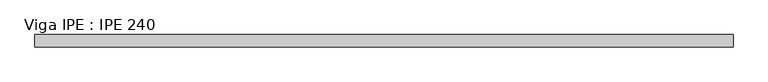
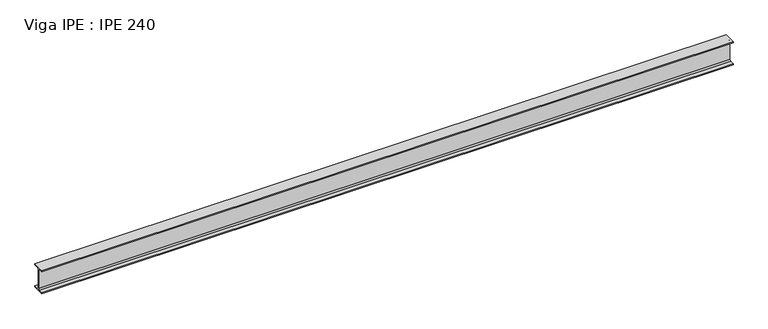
"""IFC4 building model written with IfcOpenShell, lengths in millimetres: beam geometry, Viga IPE : IPE 240."""

from ifc_helpers import new_model, si_unit, point, frame, frame_2d, origin, place, context, project, spatial, polyline, circle_curve, trimmed, segment, composite_curve, outline, extrude, source, transform, mapped, element, save


def viga_ipe_ipe_240_06474b5d(model_context):
    return source(origin(), model_context, "Body", "SweptSolid", [
        extrude(outline(composite_curve([segment(polyline([(60.0, -110.2), (60.0, -120.0), (-60.0, -120.0), (-60.0, -110.2), (-18.1, -110.2)]), True, "CONTINUOUS"), segment(trimmed(circle_curve(frame_2d((-18.1, -95.2)), 15.0), [point((-18.1, -110.2))], [point((-3.1, -95.2))], True, "CARTESIAN"), True, "CONTINUOUS"), segment(polyline([(-3.1, -95.2), (-3.1, 95.2)]), True, "CONTINUOUS"), segment(trimmed(circle_curve(frame_2d((-18.1, 95.2)), 15.0), [point((-3.1, 95.2))], [point((-18.1, 110.2))], True, "CARTESIAN"), True, "CONTINUOUS"), segment(polyline([(-18.1, 110.2), (-60.0, 110.2), (-60.0, 120.0), (60.0, 120.0), (60.0, 110.2), (18.1, 110.2)]), True, "CONTINUOUS"), segment(trimmed(circle_curve(frame_2d((18.1, 95.2)), 15.0), [point((18.1, 110.2))], [point((3.1, 95.2))], True, "CARTESIAN"), True, "CONTINUOUS"), segment(polyline([(3.1, 95.2), (3.1, -95.2)]), True, "CONTINUOUS"), segment(trimmed(circle_curve(frame_2d((18.1, -95.2)), 15.0), [point((3.1, -95.2))], [point((18.1, -110.2))], True, "CARTESIAN"), True, "CONTINUOUS"), segment(polyline([(18.1, -110.2), (60.0, -110.2)]), True, "CONTINUOUS")], self_intersect=False)), frame((-3435.5, 0.0, 0.0), z_axis=(1.0, 0.0, 0.0), x_axis=(0.0, 1.0, 0.0)), (0.0, 0.0, 1.0), 6845.0),
    ])


if __name__ == "__main__":
    model = new_model("IFC4")
    model_context = context("Model", 3, world=origin())
    ifc_project = project(units=[si_unit("LENGTHUNIT", "METRE", prefix="MILLI")], contexts=[model_context])
    site = spatial("IfcSite", under=ifc_project)
    building = spatial("IfcBuilding", under=site)
    placement = place(None, origin())
    viga_ipe_ipe_240_shape = viga_ipe_ipe_240_06474b5d(model_context)
    element("IfcBeam", 1, ObjectType="Viga IPE : IPE 240", at=placement, inside=building, context=model_context, shape_type="MappedRepresentation", body=[
        mapped(viga_ipe_ipe_240_shape, transform((0.0, 0.0, 0.0), x_axis=(1.0, 0.0, 0.0), y_axis=(0.0, 1.0, 0.0), z_axis=(0.0, 0.0, 1.0))),
    ])
    save(model, "model.ifc")
